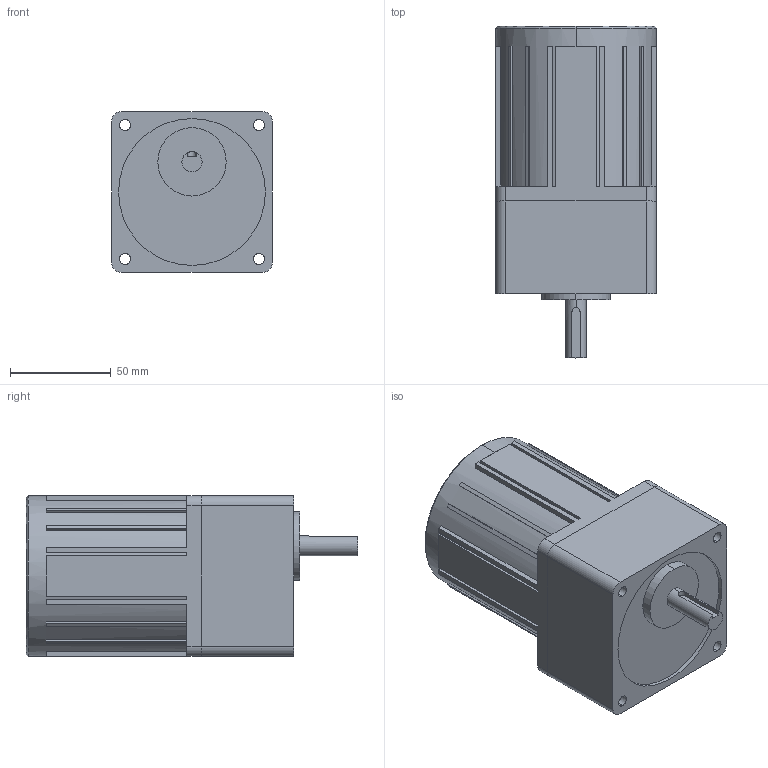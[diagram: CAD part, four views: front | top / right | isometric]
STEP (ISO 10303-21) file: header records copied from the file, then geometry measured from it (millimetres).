
FILE_DESCRIPTION (( 'STEP AP203' ), '1' );
FILE_NAME ('L8HK025B + L8I25PBL.STEP', '2018-09-20T05:31:54', ( '' ), ( '' ), 'SwSTEP 2.0', 'SolidWorks 2017', '' );
FILE_SCHEMA (( 'CONFIG_CONTROL_DESIGN' ));
Length unit declared in the file: millimetre
Products named in the file (1): L8HK025B + L8I25PBL
Bounding box: 80 x 165 x 80 mm (x, y, z)
Volume: 738377.8 mm3; surface area: 72504.4 mm2
Topology: 2 solids, 2 shells, 149 faces, 406 edges, 268 vertices
Faces by surface type: plane 106, cylinder 41, cone 2
Entity records: 4854 total; most frequent: CARTESIAN_POINT 854, DIRECTION 829, ORIENTED_EDGE 812, EDGE_CURVE 406, LINE 279, VECTOR 279, AXIS2_PLACEMENT_3D 275, VERTEX_POINT 268
